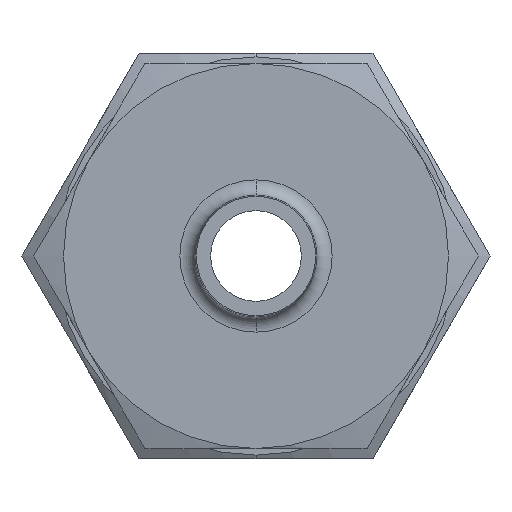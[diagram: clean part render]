
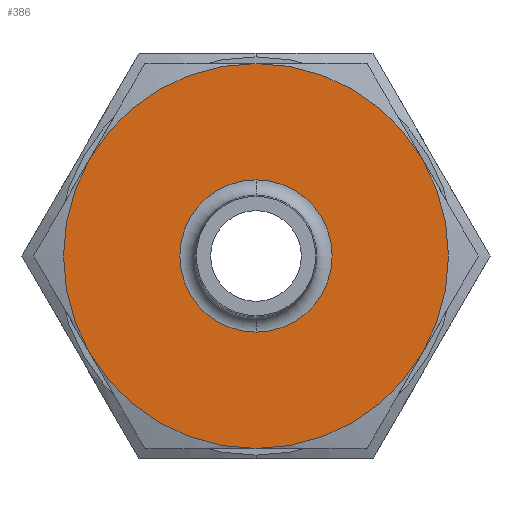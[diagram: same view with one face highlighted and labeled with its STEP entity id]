
A CAD part, left-side view. The second image highlights one B-rep face of the part: STEP entity #386.
In plain terms, the highlighted planar face has unit normal (-1, 0, 0).
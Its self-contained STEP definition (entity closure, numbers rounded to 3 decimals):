
#157 = EDGE_CURVE ( 'NONE', #158, #159, #993, .T. ) ;
#158 = VERTEX_POINT ( 'NONE', #984 ) ;
#159 = VERTEX_POINT ( 'NONE', #983 ) ;
#232 = ORIENTED_EDGE ( 'NONE', *, *, #157, .T. ) ;
#233 = EDGE_LOOP ( 'NONE', ( #395, #383, #385, #273, #275, #277 ) ) ;
#234 = EDGE_LOOP ( 'NONE', ( #291, #232 ) ) ;
#272 = EDGE_CURVE ( 'NONE', #306, #446, #1844, .T. ) ;
#273 = ORIENTED_EDGE ( 'NONE', *, *, #274, .F. ) ;
#274 = EDGE_CURVE ( 'NONE', #324, #306, #1869, .T. ) ;
#275 = ORIENTED_EDGE ( 'NONE', *, *, #276, .T. ) ;
#276 = EDGE_CURVE ( 'NONE', #324, #352, #1864, .T. ) ;
#277 = ORIENTED_EDGE ( 'NONE', *, *, #278, .F. ) ;
#278 = EDGE_CURVE ( 'NONE', #329, #352, #1859, .T. ) ;
#291 = ORIENTED_EDGE ( 'NONE', *, *, #394, .T. ) ;
#306 = VERTEX_POINT ( 'NONE', #1955 ) ;
#324 = VERTEX_POINT ( 'NONE', #1907 ) ;
#329 = VERTEX_POINT ( 'NONE', #1882 ) ;
#352 = VERTEX_POINT ( 'NONE', #1396 ) ;
#359 = VERTEX_POINT ( 'NONE', #1418 ) ;
#383 = ORIENTED_EDGE ( 'NONE', *, *, #384, .F. ) ;
#384 = EDGE_CURVE ( 'NONE', #446, #359, #1302, .T. ) ;
#385 = ORIENTED_EDGE ( 'NONE', *, *, #272, .F. ) ;
#386 = ADVANCED_FACE ( 'NONE', ( #1297, #1296 ), #1295, .F. ) ;
#394 = EDGE_CURVE ( 'NONE', #159, #158, #1244, .T. ) ;
#395 = ORIENTED_EDGE ( 'NONE', *, *, #396, .F. ) ;
#396 = EDGE_CURVE ( 'NONE', #359, #329, #1438, .T. ) ;
#446 = VERTEX_POINT ( 'NONE', #1358 ) ;
#983 = CARTESIAN_POINT ( 'NONE',  ( 0., 0., -5.965 ) ) ;
#984 = CARTESIAN_POINT ( 'NONE',  ( 0., 0., 5.965 ) ) ;
#985 = DIRECTION ( 'NONE',  ( 0., 0., -1. ) ) ;
#986 = DIRECTION ( 'NONE',  ( 1., 0., 0. ) ) ;
#987 = CARTESIAN_POINT ( 'NONE',  ( 0., 0., 0. ) ) ;
#988 = AXIS2_PLACEMENT_3D ( 'NONE', #987, #986, #985 ) ;
#993 = CIRCLE ( 'NONE', #988, 5.965 ) ;
#1242 = CARTESIAN_POINT ( 'NONE',  ( 0., 0., 0. ) ) ;
#1243 = AXIS2_PLACEMENT_3D ( 'NONE', #1242, #1440, #1439 ) ;
#1244 = CIRCLE ( 'NONE', #1243, 5.965 ) ;
#1291 = DIRECTION ( 'NONE',  ( 0., 0., -1. ) ) ;
#1292 = DIRECTION ( 'NONE',  ( 1., 0., 0. ) ) ;
#1293 = AXIS2_PLACEMENT_3D ( 'NONE', #1294, #1292, #1291 ) ;
#1294 = CARTESIAN_POINT ( 'NONE',  ( 0., 17.413, 0. ) ) ;
#1295 = PLANE ( 'NONE',  #1293 ) ;
#1296 = FACE_OUTER_BOUND ( 'NONE', #233, .T. ) ;
#1297 = FACE_BOUND ( 'NONE', #234, .T. ) ;
#1298 = DIRECTION ( 'NONE',  ( 0., 0., -1. ) ) ;
#1299 = DIRECTION ( 'NONE',  ( 1., 0., 0. ) ) ;
#1300 = CARTESIAN_POINT ( 'NONE',  ( 0., 0., 0. ) ) ;
#1301 = AXIS2_PLACEMENT_3D ( 'NONE', #1300, #1299, #1298 ) ;
#1302 = CIRCLE ( 'NONE', #1301, 15.08 ) ;
#1358 = CARTESIAN_POINT ( 'NONE',  ( 0., -13.06, -7.54 ) ) ;
#1396 = CARTESIAN_POINT ( 'NONE',  ( 0., 13.06, 7.54 ) ) ;
#1418 = CARTESIAN_POINT ( 'NONE',  ( 0., 0., -15.08 ) ) ;
#1434 = DIRECTION ( 'NONE',  ( 0., 0., -1. ) ) ;
#1435 = DIRECTION ( 'NONE',  ( 1., 0., 0. ) ) ;
#1436 = CARTESIAN_POINT ( 'NONE',  ( 0., 0., 0. ) ) ;
#1437 = AXIS2_PLACEMENT_3D ( 'NONE', #1436, #1435, #1434 ) ;
#1438 = CIRCLE ( 'NONE', #1437, 15.08 ) ;
#1439 = DIRECTION ( 'NONE',  ( 0., 0., -1. ) ) ;
#1440 = DIRECTION ( 'NONE',  ( 1., 0., 0. ) ) ;
#1844 = CIRCLE ( 'NONE', #1872, 15.08 ) ;
#1855 = DIRECTION ( 'NONE',  ( 0., 0., -1. ) ) ;
#1856 = DIRECTION ( 'NONE',  ( 1., 0., 0. ) ) ;
#1857 = CARTESIAN_POINT ( 'NONE',  ( 0., 0., 0. ) ) ;
#1858 = AXIS2_PLACEMENT_3D ( 'NONE', #1857, #1856, #1855 ) ;
#1859 = CIRCLE ( 'NONE', #1858, 15.08 ) ;
#1860 = DIRECTION ( 'NONE',  ( 0., 0., 1. ) ) ;
#1861 = DIRECTION ( 'NONE',  ( -1., 0., 0. ) ) ;
#1862 = CARTESIAN_POINT ( 'NONE',  ( 0., 0., 0. ) ) ;
#1863 = AXIS2_PLACEMENT_3D ( 'NONE', #1862, #1861, #1860 ) ;
#1864 = CIRCLE ( 'NONE', #1863, 15.08 ) ;
#1865 = DIRECTION ( 'NONE',  ( 0., 0., -1. ) ) ;
#1866 = DIRECTION ( 'NONE',  ( 1., 0., 0. ) ) ;
#1867 = CARTESIAN_POINT ( 'NONE',  ( 0., 0., 0. ) ) ;
#1868 = AXIS2_PLACEMENT_3D ( 'NONE', #1867, #1866, #1865 ) ;
#1869 = CIRCLE ( 'NONE', #1868, 15.08 ) ;
#1870 = DIRECTION ( 'NONE',  ( 0., 0., -1. ) ) ;
#1871 = DIRECTION ( 'NONE',  ( 1., 0., 0. ) ) ;
#1872 = AXIS2_PLACEMENT_3D ( 'NONE', #1906, #1871, #1870 ) ;
#1882 = CARTESIAN_POINT ( 'NONE',  ( 0., 13.06, -7.54 ) ) ;
#1906 = CARTESIAN_POINT ( 'NONE',  ( 0., 0., 0. ) ) ;
#1907 = CARTESIAN_POINT ( 'NONE',  ( 0., 0., 15.08 ) ) ;
#1955 = CARTESIAN_POINT ( 'NONE',  ( 0., -13.06, 7.54 ) ) ;
